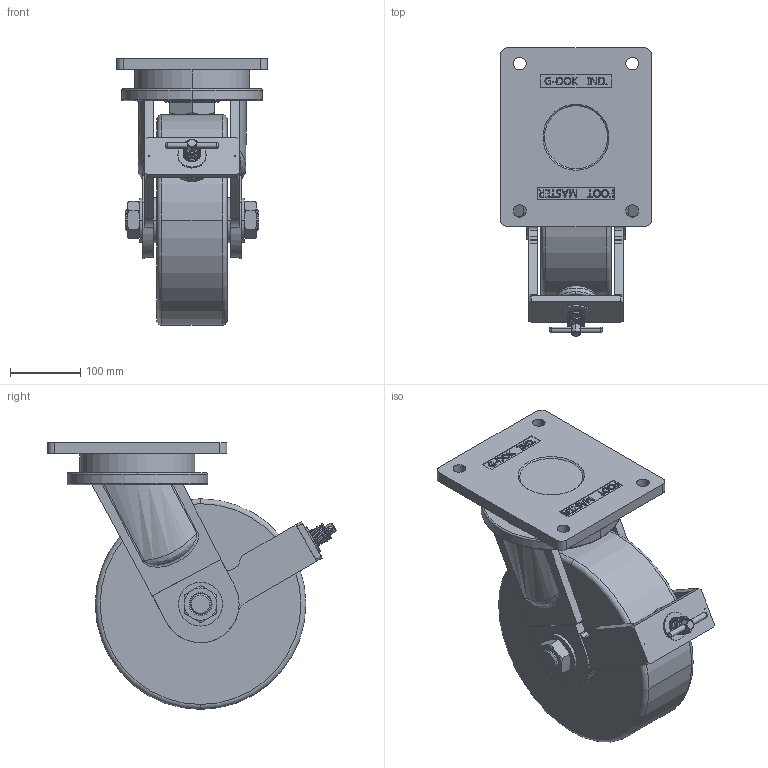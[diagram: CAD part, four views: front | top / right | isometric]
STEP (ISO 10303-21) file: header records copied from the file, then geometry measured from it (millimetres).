
FILE_DESCRIPTION((''),'2;1');
FILE_NAME('UGXT-300 B SF-3D-IN.stp','2011-11-22T13:17:07',(''),(''),'Mechanical Desktop 2009','Mechanical Desktop 2009',', , ');
FILE_SCHEMA(('CONFIG_CONTROL_DESIGN'));
Length unit declared in the file: millimetre
Products named in the file (15): UGXT-300 B SF-3D-IN; UGXT-300 B SF-3D; UGXT-BRAKE SUB ASSY; GXT-BRAKE-BRACKET; GXT-BRAKE-BOLT-M20; GXT-BRAKE-HANDLE; GXT-BRAKE-PAD-D58; D58辨-堅鼠檣賦お; D58辨-PAD; 睡ヶ1; 3D-D58辨-堅鼠; M20-3謙-NUT; WASHER-D27XD13X1.5T-S130; WASHER-D40XD21X2.6T-PH MCD; GXT-BRAKE-SPRING
Assembly tree (14 placements, depth 5):
  UGXT-300 B SF-3D-IN
    UGXT-300 B SF-3D
    UGXT-BRAKE SUB ASSY
      GXT-BRAKE-BRACKET
      GXT-BRAKE-BOLT-M20
      GXT-BRAKE-HANDLE
      GXT-BRAKE-PAD-D58
        D58辨-堅鼠檣賦お
        D58辨-PAD
          睡ヶ1
        3D-D58辨-堅鼠
      M20-3謙-NUT
      WASHER-D27XD13X1.5T-S130
      WASHER-D40XD21X2.6T-PH MCD
      GXT-BRAKE-SPRING
Bounding box: 215 x 410.68 x 380 mm (x, y, z)
Volume: 10170142.2 mm3; surface area: 617382.3 mm2
Topology: 13 solids, 19 shells, 718 faces, 1813 edges, 1187 vertices
Faces by surface type: plane 331, bspline 188, cylinder 125, cone 48, torus 26
Entity records: 26277 total; most frequent: CARTESIAN_POINT 9506, ORIENTED_EDGE 3626, DIRECTION 3021, EDGE_CURVE 1813, VERTEX_POINT 1187, VECTOR 1061, LINE 1061, AXIS2_PLACEMENT_3D 980
